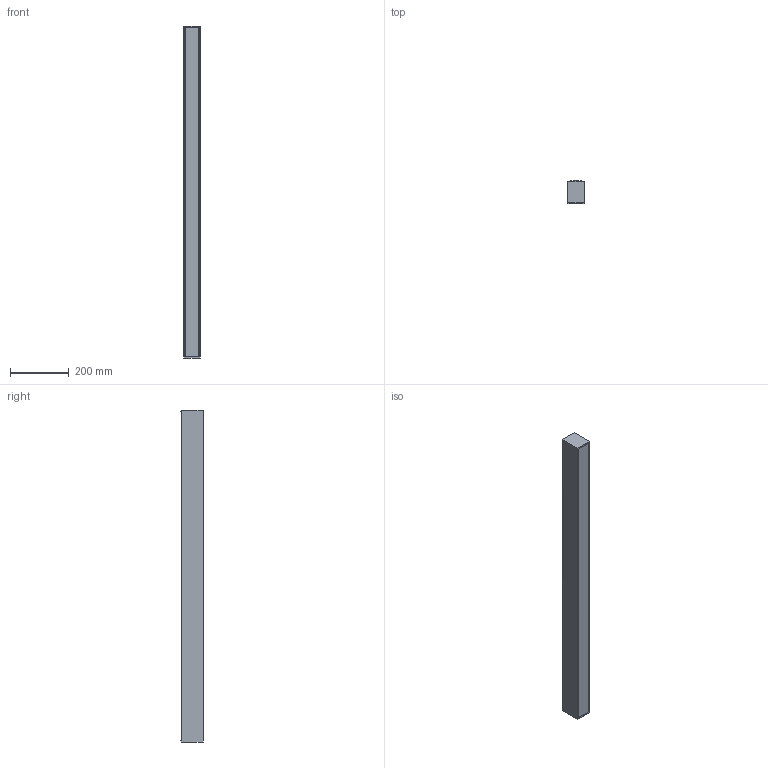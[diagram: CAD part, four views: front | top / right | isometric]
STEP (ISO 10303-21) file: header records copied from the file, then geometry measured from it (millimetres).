
FILE_DESCRIPTION (( 'STEP AP214' ), '1' );
FILE_NAME ('mLight KleoX58 LED_1134mm_Direct_Indirect.STEP', '2020-06-15T23:55:07', ( '' ), ( '' ), 'SwSTEP 2.0', 'SolidWorks 2017', '' );
FILE_SCHEMA (( 'AUTOMOTIVE_DESIGN' ));
Length unit declared in the file: millimetre
Products named in the file (1): mLight KleoX58 LED_1134mm_Direct_Indirect
Bounding box: 58 x 76.95 x 1134 mm (x, y, z)
Volume: 4874771.2 mm3; surface area: 374016.4 mm2
Topology: 1 solids, 1 shells, 73 faces, 203 edges, 134 vertices
Faces by surface type: plane 41, cylinder 32
Entity records: 2391 total; most frequent: CARTESIAN_POINT 423, DIRECTION 415, ORIENTED_EDGE 406, EDGE_CURVE 203, AXIS2_PLACEMENT_3D 142, VERTEX_POINT 134, VECTOR 131, LINE 131
